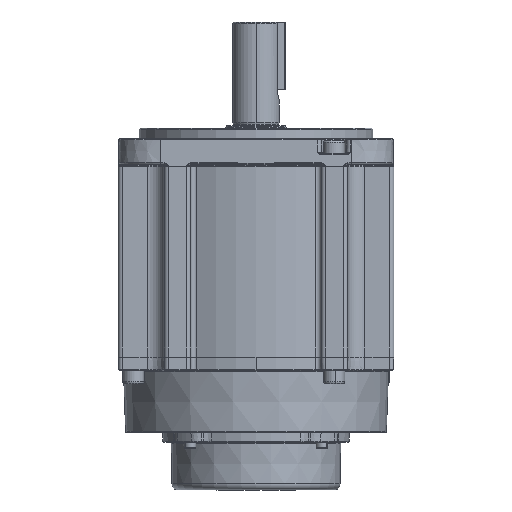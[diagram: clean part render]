
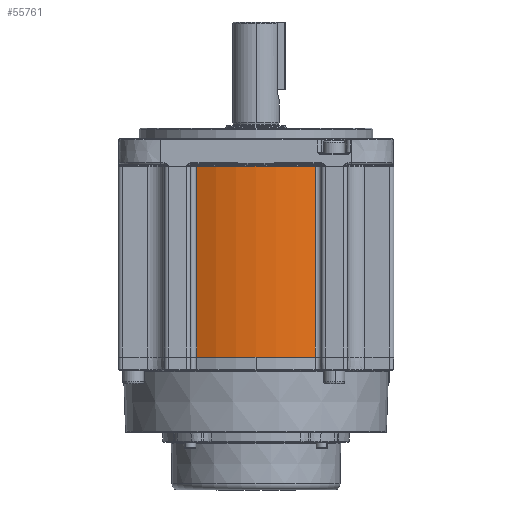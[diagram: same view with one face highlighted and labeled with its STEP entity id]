
A CAD part, front view. The second image highlights one B-rep face of the part: STEP entity #55761.
In plain terms, the highlighted cylindrical face has radius 64.5 mm (diameter 129 mm), a partial arc.
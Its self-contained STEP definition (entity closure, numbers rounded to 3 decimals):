
#1714 = CARTESIAN_POINT ( 'NONE',  ( 0., 0., -46. ) ) ;
#3554 = DIRECTION ( 'NONE',  ( 0., 1., 0. ) ) ;
#4348 = CYLINDRICAL_SURFACE ( 'NONE', #10683, 64.5 ) ;
#4827 = LINE ( 'NONE', #15644, #13726 ) ;
#5311 = VERTEX_POINT ( 'NONE', #53853 ) ;
#6029 = VERTEX_POINT ( 'NONE', #49514 ) ;
#6659 = ORIENTED_EDGE ( 'NONE', *, *, #20738, .F. ) ;
#7790 = CARTESIAN_POINT ( 'NONE',  ( 27.9, -58.154, 45. ) ) ;
#8753 = CIRCLE ( 'NONE', #41526, 64.5 ) ;
#9624 = VERTEX_POINT ( 'NONE', #25026 ) ;
#10683 = AXIS2_PLACEMENT_3D ( 'NONE', #1714, #14932, #41153 ) ;
#13096 = EDGE_LOOP ( 'NONE', ( #38517, #48387, #6659, #40710 ) ) ;
#13726 = VECTOR ( 'NONE', #37206, 1000. ) ;
#14932 = DIRECTION ( 'NONE',  ( 0., 0., 1. ) ) ;
#15644 = CARTESIAN_POINT ( 'NONE',  ( 27.9, -58.154, -46. ) ) ;
#19471 = CIRCLE ( 'NONE', #45171, 64.5 ) ;
#19764 = VECTOR ( 'NONE', #26493, 1000. ) ;
#20738 = EDGE_CURVE ( 'NONE', #9624, #39434, #8753, .T. ) ;
#21856 = CARTESIAN_POINT ( 'NONE',  ( 0., 0., 45. ) ) ;
#25026 = CARTESIAN_POINT ( 'NONE',  ( -27.9, -58.154, 45. ) ) ;
#26219 = DIRECTION ( 'NONE',  ( 0., -1., 0. ) ) ;
#26493 = DIRECTION ( 'NONE',  ( 0., 0., -1. ) ) ;
#27651 = FACE_OUTER_BOUND ( 'NONE', #13096, .T. ) ;
#29757 = DIRECTION ( 'NONE',  ( 0., 0., -1. ) ) ;
#31392 = LINE ( 'NONE', #39690, #19764 ) ;
#35121 = EDGE_CURVE ( 'NONE', #9624, #6029, #31392, .T. ) ;
#37206 = DIRECTION ( 'NONE',  ( 0., 0., 1. ) ) ;
#38517 = ORIENTED_EDGE ( 'NONE', *, *, #55474, .F. ) ;
#39434 = VERTEX_POINT ( 'NONE', #7790 ) ;
#39690 = CARTESIAN_POINT ( 'NONE',  ( -27.9, -58.154, -46. ) ) ;
#40710 = ORIENTED_EDGE ( 'NONE', *, *, #35121, .T. ) ;
#41153 = DIRECTION ( 'NONE',  ( 1., 0., 0. ) ) ;
#41526 = AXIS2_PLACEMENT_3D ( 'NONE', #21856, #52494, #26219 ) ;
#42366 = EDGE_CURVE ( 'NONE', #5311, #39434, #4827, .T. ) ;
#45171 = AXIS2_PLACEMENT_3D ( 'NONE', #56041, #29757, #3554 ) ;
#48387 = ORIENTED_EDGE ( 'NONE', *, *, #42366, .T. ) ;
#49514 = CARTESIAN_POINT ( 'NONE',  ( -27.9, -58.154, -45. ) ) ;
#52494 = DIRECTION ( 'NONE',  ( 0., 0., 1. ) ) ;
#53853 = CARTESIAN_POINT ( 'NONE',  ( 27.9, -58.154, -45. ) ) ;
#55474 = EDGE_CURVE ( 'NONE', #5311, #6029, #19471, .T. ) ;
#55761 = ADVANCED_FACE ( 'NONE', ( #27651 ), #4348, .T. ) ;
#56041 = CARTESIAN_POINT ( 'NONE',  ( 0., 0., -45. ) ) ;
